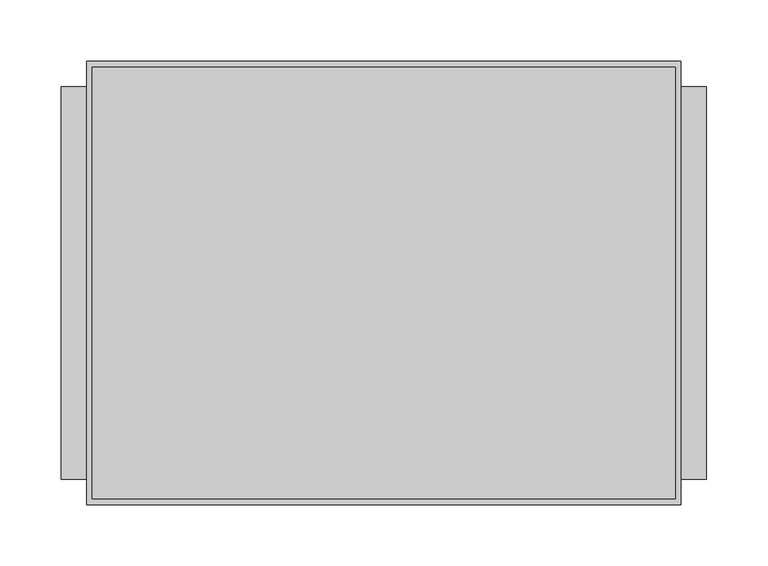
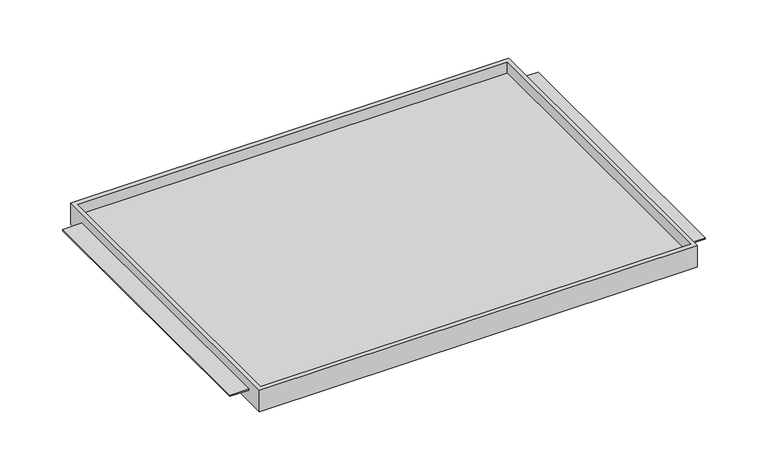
"""IFC4 building model written with IfcOpenShell, lengths in millimetres: furniture geometry."""

from ifc_helpers import new_model, si_unit, origin, place, context, project, spatial, faceted_brep, source, transform, mapped, element, save


def furniture_11574fec(model_context):
    return source(origin(), model_context, "Body", "Brep", [
        faceted_brep([(-242.7689646, -180.975, 630.174), (242.7689646, -180.975, 630.174), (242.7689646, -180.975, 655.574), (-242.7689646, -180.975, 655.574), (-242.7689646, 180.975, 630.174), (-242.7689646, 180.975, 655.574), (242.7689646, 180.975, 655.574), (242.7689646, 180.975, 630.174), (242.7689646, -160.3374879, 644.4742), (242.7689646, 160.3374879, 644.4742), (242.7689646, 160.3374879, 642.874), (242.7689646, -160.3374879, 642.874), (238.125, -176.2125, 655.574), (-238.125, -176.2125, 655.574), (-238.125, 175.91278, 655.574), (238.125, 175.91278, 655.574), (-242.7689646, 160.3374879, 644.4742), (-242.7689646, -160.3374879, 644.4742), (-242.7689646, -160.3374879, 642.874), (-242.7689646, 160.3374879, 642.874), (-238.125, -176.2125, 642.874), (238.125, -176.2125, 642.874), (238.125, 175.91278, 642.874), (-238.125, 175.91278, 642.874), (-263.525, 160.3374879, 644.4742), (-263.525, -160.3374879, 644.4742), (263.525, -160.3374879, 644.4742), (263.525, 160.3374879, 644.4742), (-263.525, -160.3374879, 642.874), (-263.525, 160.3374879, 642.874), (263.525, -160.3374879, 642.874), (263.525, 160.3374879, 642.874)], [[[0, 1, 2, 3]], [[4, 5, 6, 7]], [[1, 0, 4, 7]], [[2, 1, 7, 6], [8, 9, 10, 11]], [[3, 2, 6, 5], [12, 13, 14, 15]], [[0, 3, 5, 4], [16, 17, 18, 19]], [[20, 21, 22, 23]], [[21, 20, 13, 12]], [[22, 21, 12, 15]], [[23, 22, 15, 14]], [[20, 23, 14, 13]], [[16, 24, 25, 17]], [[26, 27, 9, 8]], [[18, 28, 29, 19]], [[30, 11, 10, 31]], [[24, 16, 19, 29]], [[25, 24, 29, 28]], [[17, 25, 28, 18]], [[27, 26, 30, 31]], [[9, 27, 31, 10]], [[26, 8, 11, 30]]]),
    ])


if __name__ == "__main__":
    model = new_model("IFC4")
    model_context = context("Model", 3, world=origin())
    ifc_project = project(units=[si_unit("LENGTHUNIT", "METRE", prefix="MILLI")], contexts=[model_context])
    site = spatial("IfcSite", under=ifc_project)
    building = spatial("IfcBuilding", under=site)
    placement = place(None, origin())
    furniture_shape = furniture_11574fec(model_context)
    element("IfcFurniture", 1, ObjectType="HermanMiller_CoStruc_CO203_CTrayShelf : 14\"D x 20\"W", at=placement, inside=building, context=model_context, shape_type="MappedRepresentation", body=[
        mapped(furniture_shape, transform((0.0, 0.0, 0.0), x_axis=(1.0, 0.0, 0.0), y_axis=(0.0, 1.0, 0.0), z_axis=(0.0, 0.0, 1.0))),
    ])
    save(model, "model.ifc")
